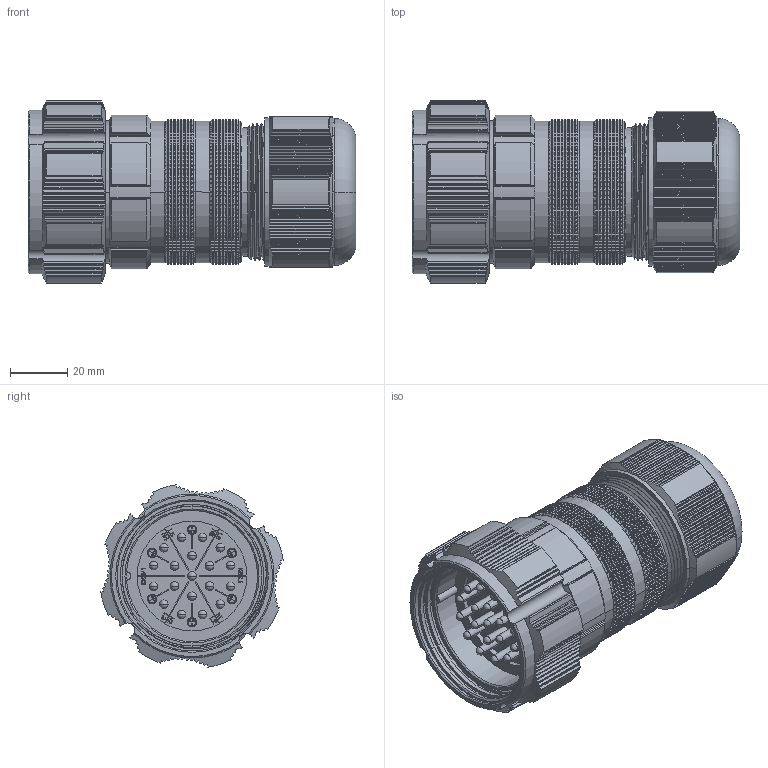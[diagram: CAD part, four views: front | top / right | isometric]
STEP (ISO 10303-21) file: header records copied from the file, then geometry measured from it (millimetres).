
FILE_DESCRIPTION((''),'2;1');
FILE_NAME('DAKONG_ASM','2020-06-04T',('Administrator'),(''),'CREO PARAMETRIC BY PTC INC, 2016130','CREO PARAMETRIC BY PTC INC, 2016130','');
FILE_SCHEMA(('CONFIG_CONTROL_DESIGN'));
Products named in the file (1): DAKONG_ASM
Bounding box: 114.97 x 63.98 x 63.98 mm (x, y, z)
Volume: 209990.5 mm3; surface area: 68559.8 mm2
Topology: 1 solids, 1 shells, 8333 faces, 24568 edges, 16233 vertices
Faces by surface type: plane 5872, cylinder 1836, bspline 269, cone 177, torus 141, sphere 38
Entity records: 304173 total; most frequent: CARTESIAN_POINT 87566, ORIENTED_EDGE 49060, DIRECTION 40371, EDGE_CURVE 24530, VECTOR 16255, LINE 16255, VERTEX_POINT 16233, AXIS2_PLACEMENT_3D 12058
